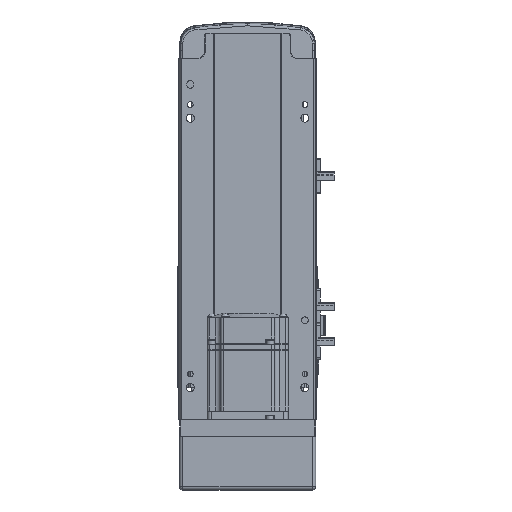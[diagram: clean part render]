
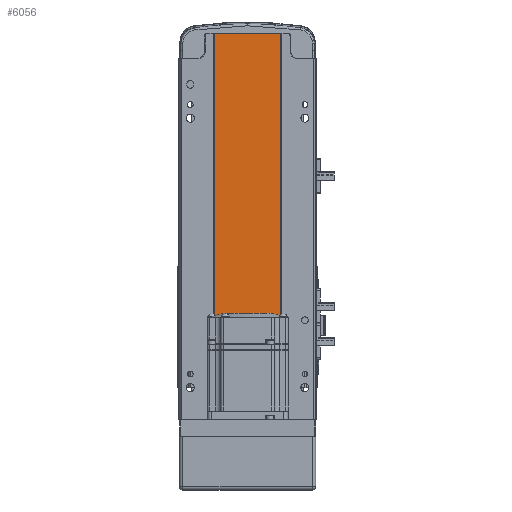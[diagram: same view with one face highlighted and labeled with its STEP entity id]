
A CAD part, front view. The second image highlights one B-rep face of the part: STEP entity #6056.
In plain terms, the highlighted planar face has unit normal (0, -1, 0).
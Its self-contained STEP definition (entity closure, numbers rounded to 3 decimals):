
#1101 = VERTEX_POINT ( 'NONE', #37458 ) ;
#1234 = ORIENTED_EDGE ( 'NONE', *, *, #32272, .F. ) ;
#1284 = ORIENTED_EDGE ( 'NONE', *, *, #21106, .T. ) ;
#1889 = CARTESIAN_POINT ( 'NONE',  ( -24.5, 2., 287. ) ) ;
#2626 = EDGE_LOOP ( 'NONE', ( #1284, #8310, #1234, #57295 ) ) ;
#2796 = VECTOR ( 'NONE', #48282, 1000. ) ;
#3246 = EDGE_CURVE ( 'NONE', #1101, #40752, #23763, .T. ) ;
#6056 = ADVANCED_FACE ( 'NONE', ( #46781 ), #27602, .F. ) ;
#8310 = ORIENTED_EDGE ( 'NONE', *, *, #26838, .F. ) ;
#18300 = DIRECTION ( 'NONE',  ( 0., 0., 1. ) ) ;
#21106 = EDGE_CURVE ( 'NONE', #40752, #32537, #49018, .T. ) ;
#21553 = VERTEX_POINT ( 'NONE', #24693 ) ;
#23763 = LINE ( 'NONE', #56859, #2796 ) ;
#24693 = CARTESIAN_POINT ( 'NONE',  ( 24.5, 2., 287. ) ) ;
#26562 = VECTOR ( 'NONE', #34484, 1000. ) ;
#26838 = EDGE_CURVE ( 'NONE', #21553, #32537, #28285, .T. ) ;
#27602 = PLANE ( 'NONE',  #54166 ) ;
#28285 = LINE ( 'NONE', #37193, #29691 ) ;
#29691 = VECTOR ( 'NONE', #37568, 1000. ) ;
#30022 = LINE ( 'NONE', #1889, #26562 ) ;
#31532 = CARTESIAN_POINT ( 'NONE',  ( 24.5, 2., 0. ) ) ;
#31737 = CARTESIAN_POINT ( 'NONE',  ( 0., 2., 287. ) ) ;
#32272 = EDGE_CURVE ( 'NONE', #1101, #21553, #30022, .T. ) ;
#32537 = VERTEX_POINT ( 'NONE', #31532 ) ;
#34394 = CARTESIAN_POINT ( 'NONE',  ( 0., 2., 0. ) ) ;
#34484 = DIRECTION ( 'NONE',  ( 1., 0., 0. ) ) ;
#34602 = DIRECTION ( 'NONE',  ( 1., 0., 0. ) ) ;
#37193 = CARTESIAN_POINT ( 'NONE',  ( 24.5, 2., 287. ) ) ;
#37458 = CARTESIAN_POINT ( 'NONE',  ( -24.5, 2., 287. ) ) ;
#37568 = DIRECTION ( 'NONE',  ( 0., 0., -1. ) ) ;
#40752 = VERTEX_POINT ( 'NONE', #46974 ) ;
#44601 = DIRECTION ( 'NONE',  ( 0., 1., 0. ) ) ;
#46781 = FACE_OUTER_BOUND ( 'NONE', #2626, .T. ) ;
#46974 = CARTESIAN_POINT ( 'NONE',  ( -24.5, 2., 0. ) ) ;
#47604 = VECTOR ( 'NONE', #34602, 1000. ) ;
#48282 = DIRECTION ( 'NONE',  ( 0., 0., -1. ) ) ;
#49018 = LINE ( 'NONE', #34394, #47604 ) ;
#54166 = AXIS2_PLACEMENT_3D ( 'NONE', #31737, #44601, #18300 ) ;
#56859 = CARTESIAN_POINT ( 'NONE',  ( -24.5, 2., 287. ) ) ;
#57295 = ORIENTED_EDGE ( 'NONE', *, *, #3246, .T. ) ;
